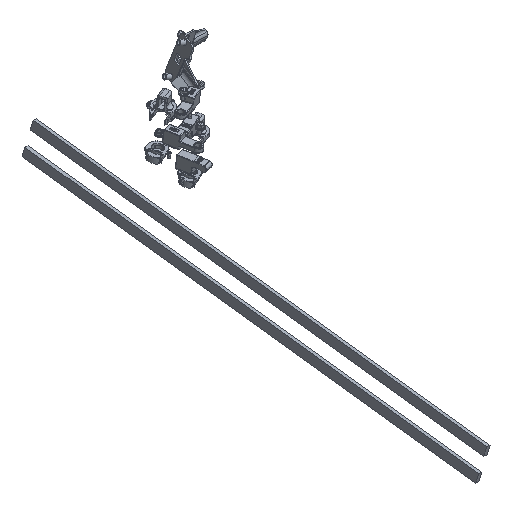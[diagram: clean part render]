
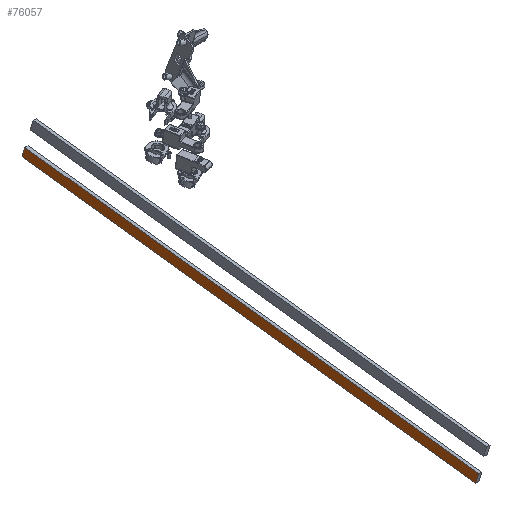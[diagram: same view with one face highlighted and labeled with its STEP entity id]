
A CAD part, isometric view. The second image highlights one B-rep face of the part: STEP entity #76057.
In plain terms, the highlighted planar face has unit normal (-0.983, -0.077, 0.166) as drawn and (0, 1, 0) by its records, which use the part's own axes.
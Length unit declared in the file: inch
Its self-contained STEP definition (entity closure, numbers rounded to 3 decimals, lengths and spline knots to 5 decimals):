
#75913=DIRECTION('',(-1.,0.,0.));
#75914=VECTOR('',#75913,32.);
#75915=CARTESIAN_POINT('',(16.,0.25,0.25));
#75916=LINE('',#75915,#75914);
#75934=DIRECTION('',(0.,0.,-1.));
#75935=VECTOR('',#75934,0.625);
#75936=CARTESIAN_POINT('',(16.,0.25,0.25));
#75937=LINE('',#75936,#75935);
#75941=DIRECTION('',(0.,0.,-1.));
#75942=VECTOR('',#75941,0.625);
#75943=CARTESIAN_POINT('',(-16.,0.25,0.25));
#75944=LINE('',#75943,#75942);
#75969=DIRECTION('',(-1.,0.,0.));
#75970=VECTOR('',#75969,32.);
#75971=CARTESIAN_POINT('',(16.,0.25,-0.375));
#75972=LINE('',#75971,#75970);
#75987=CARTESIAN_POINT('',(-16.,0.25,0.25));
#75988=VERTEX_POINT('',#75987);
#75989=CARTESIAN_POINT('',(16.,0.25,0.25));
#75990=VERTEX_POINT('',#75989);
#75995=CARTESIAN_POINT('',(-16.,0.25,-0.375));
#75996=VERTEX_POINT('',#75995);
#75997=CARTESIAN_POINT('',(16.,0.25,-0.375));
#75998=VERTEX_POINT('',#75997);
#76044=CARTESIAN_POINT('',(0.,0.25,-0.0625));
#76045=DIRECTION('',(0.,1.,0.));
#76046=DIRECTION('',(-1.,0.,0.));
#76047=AXIS2_PLACEMENT_3D('',#76044,#76045,#76046);
#76048=PLANE('',#76047);
#76049=ORIENTED_EDGE('',*,*,#76008,.T.);
#76051=ORIENTED_EDGE('',*,*,#76050,.T.);
#76053=ORIENTED_EDGE('',*,*,#76052,.F.);
#76054=ORIENTED_EDGE('',*,*,#76036,.F.);
#76055=EDGE_LOOP('',(#76049,#76051,#76053,#76054));
#76056=FACE_OUTER_BOUND('',#76055,.F.);
#76008=EDGE_CURVE('',#75990,#75988,#75916,.T.);
#76036=EDGE_CURVE('',#75990,#75998,#75937,.T.);
#76050=EDGE_CURVE('',#75988,#75996,#75944,.T.);
#76052=EDGE_CURVE('',#75998,#75996,#75972,.T.);
#76057=ADVANCED_FACE('',(#76056),#76048,.T.);
